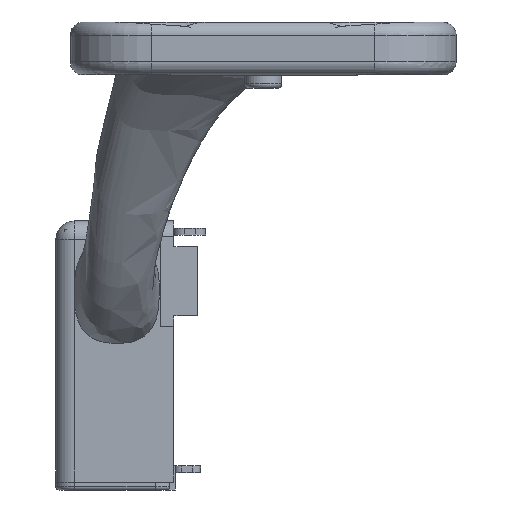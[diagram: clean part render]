
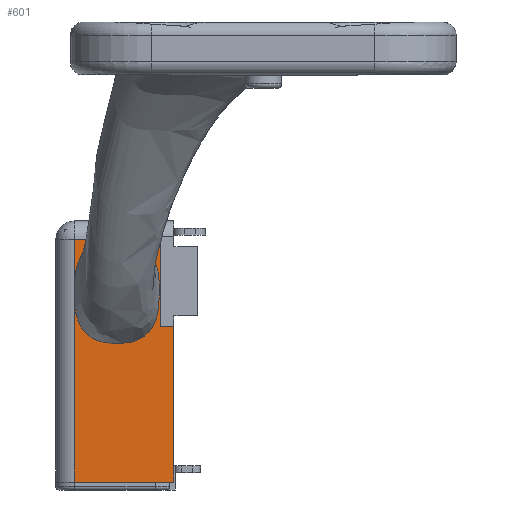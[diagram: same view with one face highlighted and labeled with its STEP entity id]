
A CAD part, front view. The second image highlights one B-rep face of the part: STEP entity #601.
In plain terms, the highlighted planar face has unit normal (0, -1, 0).
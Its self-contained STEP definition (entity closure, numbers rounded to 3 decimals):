
#82 = PLANE('',#83);
#83 = AXIS2_PLACEMENT_3D('',#84,#85,#86);
#84 = CARTESIAN_POINT('',(-90.9,-22.7,69.5));
#85 = DIRECTION('',(0.,0.,1.));
#86 = DIRECTION('',(1.,0.,0.));
#164 = CYLINDRICAL_SURFACE('',#165,7.);
#165 = AXIS2_PLACEMENT_3D('',#166,#167,#168);
#166 = CARTESIAN_POINT('',(-83.9,-15.7,69.5));
#167 = DIRECTION('',(0.,0.,1.));
#168 = DIRECTION('',(-1.,-0.,0.));
#181 = VERTEX_POINT('',#182);
#182 = CARTESIAN_POINT('',(-83.9,-22.7,69.5));
#204 = EDGE_CURVE('',#181,#205,#207,.T.);
#205 = VERTEX_POINT('',#206);
#206 = CARTESIAN_POINT('',(-46.5,-22.7,69.5));
#207 = SURFACE_CURVE('',#208,(#212,#219),.PCURVE_S1.);
#208 = LINE('',#209,#210);
#209 = CARTESIAN_POINT('',(-90.9,-22.7,69.5));
#210 = VECTOR('',#211,1.);
#211 = DIRECTION('',(1.,0.,0.));
#212 = PCURVE('',#82,#213);
#213 = DEFINITIONAL_REPRESENTATION('',(#214),#218);
#214 = LINE('',#215,#216);
#215 = CARTESIAN_POINT('',(0.,0.));
#216 = VECTOR('',#217,1.);
#217 = DIRECTION('',(1.,0.));
#218 = ( GEOMETRIC_REPRESENTATION_CONTEXT(2) 
PARAMETRIC_REPRESENTATION_CONTEXT() REPRESENTATION_CONTEXT('2D SPACE',''
  ) );
#219 = PCURVE('',#220,#225);
#220 = PLANE('',#221);
#221 = AXIS2_PLACEMENT_3D('',#222,#223,#224);
#222 = CARTESIAN_POINT('',(-90.9,-22.7,69.5));
#223 = DIRECTION('',(0.,1.,0.));
#224 = DIRECTION('',(0.,0.,1.));
#225 = DEFINITIONAL_REPRESENTATION('',(#226),#230);
#226 = LINE('',#227,#228);
#227 = CARTESIAN_POINT('',(0.,0.));
#228 = VECTOR('',#229,1.);
#229 = DIRECTION('',(0.,1.));
#230 = ( GEOMETRIC_REPRESENTATION_CONTEXT(2) 
PARAMETRIC_REPRESENTATION_CONTEXT() REPRESENTATION_CONTEXT('2D SPACE',''
  ) );
#248 = PLANE('',#249);
#249 = AXIS2_PLACEMENT_3D('',#250,#251,#252);
#250 = CARTESIAN_POINT('',(-46.5,-22.7,69.5));
#251 = DIRECTION('',(1.,0.,0.));
#252 = DIRECTION('',(0.,0.,1.));
#424 = EDGE_CURVE('',#181,#425,#427,.T.);
#425 = VERTEX_POINT('',#426);
#426 = CARTESIAN_POINT('',(-83.9,-22.7,160.7));
#427 = SURFACE_CURVE('',#428,(#432,#439),.PCURVE_S1.);
#428 = LINE('',#429,#430);
#429 = CARTESIAN_POINT('',(-83.9,-22.7,69.5));
#430 = VECTOR('',#431,1.);
#431 = DIRECTION('',(0.,0.,1.));
#432 = PCURVE('',#164,#433);
#433 = DEFINITIONAL_REPRESENTATION('',(#434),#438);
#434 = LINE('',#435,#436);
#435 = CARTESIAN_POINT('',(1.571,0.));
#436 = VECTOR('',#437,1.);
#437 = DIRECTION('',(0.,1.));
#438 = ( GEOMETRIC_REPRESENTATION_CONTEXT(2) 
PARAMETRIC_REPRESENTATION_CONTEXT() REPRESENTATION_CONTEXT('2D SPACE',''
  ) );
#439 = PCURVE('',#220,#440);
#440 = DEFINITIONAL_REPRESENTATION('',(#441),#445);
#441 = LINE('',#442,#443);
#442 = CARTESIAN_POINT('',(0.,7.));
#443 = VECTOR('',#444,1.);
#444 = DIRECTION('',(1.,0.));
#445 = ( GEOMETRIC_REPRESENTATION_CONTEXT(2) 
PARAMETRIC_REPRESENTATION_CONTEXT() REPRESENTATION_CONTEXT('2D SPACE',''
  ) );
#601 = ADVANCED_FACE('',(#602,#711,#742,#773),#220,.F.);
#602 = FACE_BOUND('',#603,.F.);
#603 = EDGE_LOOP('',(#604,#605,#606,#634,#662,#690));
#604 = ORIENTED_EDGE('',*,*,#204,.F.);
#605 = ORIENTED_EDGE('',*,*,#424,.T.);
#606 = ORIENTED_EDGE('',*,*,#607,.T.);
#607 = EDGE_CURVE('',#425,#608,#610,.T.);
#608 = VERTEX_POINT('',#609);
#609 = CARTESIAN_POINT('',(-51.5,-22.7,160.7));
#610 = SURFACE_CURVE('',#611,(#615,#622),.PCURVE_S1.);
#611 = LINE('',#612,#613);
#612 = CARTESIAN_POINT('',(-90.9,-22.7,160.7));
#613 = VECTOR('',#614,1.);
#614 = DIRECTION('',(1.,0.,0.));
#615 = PCURVE('',#220,#616);
#616 = DEFINITIONAL_REPRESENTATION('',(#617),#621);
#617 = LINE('',#618,#619);
#618 = CARTESIAN_POINT('',(91.2,0.));
#619 = VECTOR('',#620,1.);
#620 = DIRECTION('',(0.,1.));
#621 = ( GEOMETRIC_REPRESENTATION_CONTEXT(2) 
PARAMETRIC_REPRESENTATION_CONTEXT() REPRESENTATION_CONTEXT('2D SPACE',''
  ) );
#622 = PCURVE('',#623,#628);
#623 = CYLINDRICAL_SURFACE('',#624,7.);
#624 = AXIS2_PLACEMENT_3D('',#625,#626,#627);
#625 = CARTESIAN_POINT('',(-90.9,-15.7,160.7));
#626 = DIRECTION('',(1.,0.,0.));
#627 = DIRECTION('',(0.,-1.,0.));
#628 = DEFINITIONAL_REPRESENTATION('',(#629),#633);
#629 = LINE('',#630,#631);
#630 = CARTESIAN_POINT('',(-0.,0.));
#631 = VECTOR('',#632,1.);
#632 = DIRECTION('',(-0.,1.));
#633 = ( GEOMETRIC_REPRESENTATION_CONTEXT(2) 
PARAMETRIC_REPRESENTATION_CONTEXT() REPRESENTATION_CONTEXT('2D SPACE',''
  ) );
#634 = ORIENTED_EDGE('',*,*,#635,.F.);
#635 = EDGE_CURVE('',#636,#608,#638,.T.);
#636 = VERTEX_POINT('',#637);
#637 = CARTESIAN_POINT('',(-51.5,-22.7,128.));
#638 = SURFACE_CURVE('',#639,(#643,#650),.PCURVE_S1.);
#639 = LINE('',#640,#641);
#640 = CARTESIAN_POINT('',(-51.5,-22.7,128.));
#641 = VECTOR('',#642,1.);
#642 = DIRECTION('',(0.,0.,1.));
#643 = PCURVE('',#220,#644);
#644 = DEFINITIONAL_REPRESENTATION('',(#645),#649);
#645 = LINE('',#646,#647);
#646 = CARTESIAN_POINT('',(58.5,39.4));
#647 = VECTOR('',#648,1.);
#648 = DIRECTION('',(1.,0.));
#649 = ( GEOMETRIC_REPRESENTATION_CONTEXT(2) 
PARAMETRIC_REPRESENTATION_CONTEXT() REPRESENTATION_CONTEXT('2D SPACE',''
  ) );
#650 = PCURVE('',#651,#656);
#651 = PLANE('',#652);
#652 = AXIS2_PLACEMENT_3D('',#653,#654,#655);
#653 = CARTESIAN_POINT('',(-51.5,-34.4,128.));
#654 = DIRECTION('',(1.,0.,0.));
#655 = DIRECTION('',(0.,0.,1.));
#656 = DEFINITIONAL_REPRESENTATION('',(#657),#661);
#657 = LINE('',#658,#659);
#658 = CARTESIAN_POINT('',(0.,-11.7));
#659 = VECTOR('',#660,1.);
#660 = DIRECTION('',(1.,0.));
#661 = ( GEOMETRIC_REPRESENTATION_CONTEXT(2) 
PARAMETRIC_REPRESENTATION_CONTEXT() REPRESENTATION_CONTEXT('2D SPACE',''
  ) );
#662 = ORIENTED_EDGE('',*,*,#663,.T.);
#663 = EDGE_CURVE('',#636,#664,#666,.T.);
#664 = VERTEX_POINT('',#665);
#665 = CARTESIAN_POINT('',(-46.5,-22.7,128.));
#666 = SURFACE_CURVE('',#667,(#671,#678),.PCURVE_S1.);
#667 = LINE('',#668,#669);
#668 = CARTESIAN_POINT('',(-51.5,-22.7,128.));
#669 = VECTOR('',#670,1.);
#670 = DIRECTION('',(1.,0.,0.));
#671 = PCURVE('',#220,#672);
#672 = DEFINITIONAL_REPRESENTATION('',(#673),#677);
#673 = LINE('',#674,#675);
#674 = CARTESIAN_POINT('',(58.5,39.4));
#675 = VECTOR('',#676,1.);
#676 = DIRECTION('',(0.,1.));
#677 = ( GEOMETRIC_REPRESENTATION_CONTEXT(2) 
PARAMETRIC_REPRESENTATION_CONTEXT() REPRESENTATION_CONTEXT('2D SPACE',''
  ) );
#678 = PCURVE('',#679,#684);
#679 = PLANE('',#680);
#680 = AXIS2_PLACEMENT_3D('',#681,#682,#683);
#681 = CARTESIAN_POINT('',(-51.5,-34.4,128.));
#682 = DIRECTION('',(0.,0.,1.));
#683 = DIRECTION('',(1.,0.,0.));
#684 = DEFINITIONAL_REPRESENTATION('',(#685),#689);
#685 = LINE('',#686,#687);
#686 = CARTESIAN_POINT('',(0.,11.7));
#687 = VECTOR('',#688,1.);
#688 = DIRECTION('',(1.,0.));
#689 = ( GEOMETRIC_REPRESENTATION_CONTEXT(2) 
PARAMETRIC_REPRESENTATION_CONTEXT() REPRESENTATION_CONTEXT('2D SPACE',''
  ) );
#690 = ORIENTED_EDGE('',*,*,#691,.F.);
#691 = EDGE_CURVE('',#205,#664,#692,.T.);
#692 = SURFACE_CURVE('',#693,(#697,#704),.PCURVE_S1.);
#693 = LINE('',#694,#695);
#694 = CARTESIAN_POINT('',(-46.5,-22.7,69.5));
#695 = VECTOR('',#696,1.);
#696 = DIRECTION('',(0.,0.,1.));
#697 = PCURVE('',#220,#698);
#698 = DEFINITIONAL_REPRESENTATION('',(#699),#703);
#699 = LINE('',#700,#701);
#700 = CARTESIAN_POINT('',(0.,44.4));
#701 = VECTOR('',#702,1.);
#702 = DIRECTION('',(1.,0.));
#703 = ( GEOMETRIC_REPRESENTATION_CONTEXT(2) 
PARAMETRIC_REPRESENTATION_CONTEXT() REPRESENTATION_CONTEXT('2D SPACE',''
  ) );
#704 = PCURVE('',#248,#705);
#705 = DEFINITIONAL_REPRESENTATION('',(#706),#710);
#706 = LINE('',#707,#708);
#707 = CARTESIAN_POINT('',(0.,0.));
#708 = VECTOR('',#709,1.);
#709 = DIRECTION('',(1.,0.));
#710 = ( GEOMETRIC_REPRESENTATION_CONTEXT(2) 
PARAMETRIC_REPRESENTATION_CONTEXT() REPRESENTATION_CONTEXT('2D SPACE',''
  ) );
#711 = FACE_BOUND('',#712,.F.);
#712 = EDGE_LOOP('',(#713));
#713 = ORIENTED_EDGE('',*,*,#714,.F.);
#714 = EDGE_CURVE('',#715,#715,#717,.T.);
#715 = VERTEX_POINT('',#716);
#716 = CARTESIAN_POINT('',(-68.,-22.7,133.7));
#717 = SURFACE_CURVE('',#718,(#723,#730),.PCURVE_S1.);
#718 = CIRCLE('',#719,1.7);
#719 = AXIS2_PLACEMENT_3D('',#720,#721,#722);
#720 = CARTESIAN_POINT('',(-68.,-22.7,132.));
#721 = DIRECTION('',(0.,1.,0.));
#722 = DIRECTION('',(0.,-0.,1.));
#723 = PCURVE('',#220,#724);
#724 = DEFINITIONAL_REPRESENTATION('',(#725),#729);
#725 = CIRCLE('',#726,1.7);
#726 = AXIS2_PLACEMENT_2D('',#727,#728);
#727 = CARTESIAN_POINT('',(62.5,22.9));
#728 = DIRECTION('',(1.,0.));
#729 = ( GEOMETRIC_REPRESENTATION_CONTEXT(2) 
PARAMETRIC_REPRESENTATION_CONTEXT() REPRESENTATION_CONTEXT('2D SPACE',''
  ) );
#730 = PCURVE('',#731,#736);
#731 = CYLINDRICAL_SURFACE('',#732,1.7);
#732 = AXIS2_PLACEMENT_3D('',#733,#734,#735);
#733 = CARTESIAN_POINT('',(-68.,-25.9,132.));
#734 = DIRECTION('',(0.,1.,0.));
#735 = DIRECTION('',(0.,-0.,1.));
#736 = DEFINITIONAL_REPRESENTATION('',(#737),#741);
#737 = LINE('',#738,#739);
#738 = CARTESIAN_POINT('',(0.,3.2));
#739 = VECTOR('',#740,1.);
#740 = DIRECTION('',(1.,0.));
#741 = ( GEOMETRIC_REPRESENTATION_CONTEXT(2) 
PARAMETRIC_REPRESENTATION_CONTEXT() REPRESENTATION_CONTEXT('2D SPACE',''
  ) );
#742 = FACE_BOUND('',#743,.F.);
#743 = EDGE_LOOP('',(#744));
#744 = ORIENTED_EDGE('',*,*,#745,.F.);
#745 = EDGE_CURVE('',#746,#746,#748,.T.);
#746 = VERTEX_POINT('',#747);
#747 = CARTESIAN_POINT('',(-68.,-22.7,144.));
#748 = SURFACE_CURVE('',#749,(#754,#761),.PCURVE_S1.);
#749 = CIRCLE('',#750,3.);
#750 = AXIS2_PLACEMENT_3D('',#751,#752,#753);
#751 = CARTESIAN_POINT('',(-68.,-22.7,141.));
#752 = DIRECTION('',(0.,1.,0.));
#753 = DIRECTION('',(0.,-0.,1.));
#754 = PCURVE('',#220,#755);
#755 = DEFINITIONAL_REPRESENTATION('',(#756),#760);
#756 = CIRCLE('',#757,3.);
#757 = AXIS2_PLACEMENT_2D('',#758,#759);
#758 = CARTESIAN_POINT('',(71.5,22.9));
#759 = DIRECTION('',(1.,0.));
#760 = ( GEOMETRIC_REPRESENTATION_CONTEXT(2) 
PARAMETRIC_REPRESENTATION_CONTEXT() REPRESENTATION_CONTEXT('2D SPACE',''
  ) );
#761 = PCURVE('',#762,#767);
#762 = CYLINDRICAL_SURFACE('',#763,3.);
#763 = AXIS2_PLACEMENT_3D('',#764,#765,#766);
#764 = CARTESIAN_POINT('',(-68.,-25.9,141.));
#765 = DIRECTION('',(0.,1.,0.));
#766 = DIRECTION('',(0.,-0.,1.));
#767 = DEFINITIONAL_REPRESENTATION('',(#768),#772);
#768 = LINE('',#769,#770);
#769 = CARTESIAN_POINT('',(0.,3.2));
#770 = VECTOR('',#771,1.);
#771 = DIRECTION('',(1.,0.));
#772 = ( GEOMETRIC_REPRESENTATION_CONTEXT(2) 
PARAMETRIC_REPRESENTATION_CONTEXT() REPRESENTATION_CONTEXT('2D SPACE',''
  ) );
#773 = FACE_BOUND('',#774,.F.);
#774 = EDGE_LOOP('',(#775));
#775 = ORIENTED_EDGE('',*,*,#776,.F.);
#776 = EDGE_CURVE('',#777,#777,#779,.T.);
#777 = VERTEX_POINT('',#778);
#778 = CARTESIAN_POINT('',(-68.,-22.7,151.7));
#779 = SURFACE_CURVE('',#780,(#785,#792),.PCURVE_S1.);
#780 = CIRCLE('',#781,1.7);
#781 = AXIS2_PLACEMENT_3D('',#782,#783,#784);
#782 = CARTESIAN_POINT('',(-68.,-22.7,150.));
#783 = DIRECTION('',(0.,1.,0.));
#784 = DIRECTION('',(0.,-0.,1.));
#785 = PCURVE('',#220,#786);
#786 = DEFINITIONAL_REPRESENTATION('',(#787),#791);
#787 = CIRCLE('',#788,1.7);
#788 = AXIS2_PLACEMENT_2D('',#789,#790);
#789 = CARTESIAN_POINT('',(80.5,22.9));
#790 = DIRECTION('',(1.,0.));
#791 = ( GEOMETRIC_REPRESENTATION_CONTEXT(2) 
PARAMETRIC_REPRESENTATION_CONTEXT() REPRESENTATION_CONTEXT('2D SPACE',''
  ) );
#792 = PCURVE('',#793,#798);
#793 = CYLINDRICAL_SURFACE('',#794,1.7);
#794 = AXIS2_PLACEMENT_3D('',#795,#796,#797);
#795 = CARTESIAN_POINT('',(-68.,-25.9,150.));
#796 = DIRECTION('',(0.,1.,0.));
#797 = DIRECTION('',(0.,-0.,1.));
#798 = DEFINITIONAL_REPRESENTATION('',(#799),#803);
#799 = LINE('',#800,#801);
#800 = CARTESIAN_POINT('',(0.,3.2));
#801 = VECTOR('',#802,1.);
#802 = DIRECTION('',(1.,0.));
#803 = ( GEOMETRIC_REPRESENTATION_CONTEXT(2) 
PARAMETRIC_REPRESENTATION_CONTEXT() REPRESENTATION_CONTEXT('2D SPACE',''
  ) );
